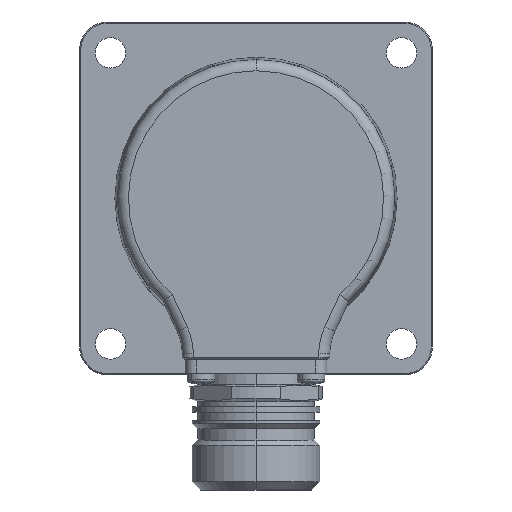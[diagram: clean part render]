
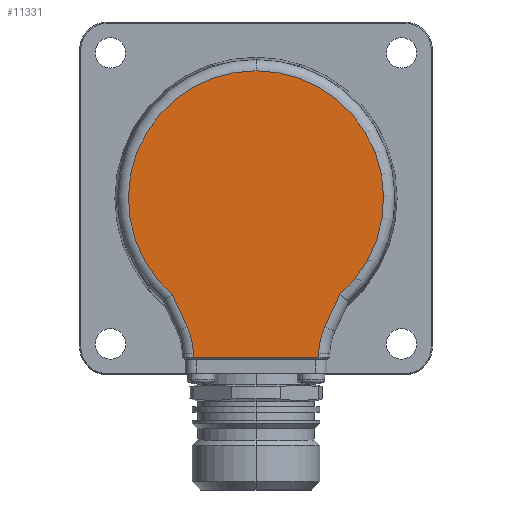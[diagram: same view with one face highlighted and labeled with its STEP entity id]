
A CAD part, left-side view. The second image highlights one B-rep face of the part: STEP entity #11331.
In plain terms, the highlighted planar face has unit normal (-1, 0, 0).
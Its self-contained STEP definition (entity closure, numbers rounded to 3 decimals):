
#5728 = CARTESIAN_POINT ( 'NONE',  ( -21., -11.268, -27.974 ) ) ;
#5736 = DIRECTION ( 'NONE',  ( 0., 0., 1. ) ) ;
#5737 = DIRECTION ( 'NONE',  ( 1., 0., 0. ) ) ;
#5738 = CARTESIAN_POINT ( 'NONE',  ( -21., -23.266, -28.183 ) ) ;
#5739 = AXIS2_PLACEMENT_3D ( 'NONE', #5738, #5737, #5736 ) ;
#5745 = CARTESIAN_POINT ( 'NONE',  ( -21., 0., 0. ) ) ;
#5759 = CIRCLE ( 'NONE', #5739, 12. ) ;
#5763 = CARTESIAN_POINT ( 'NONE',  ( -21., -12.39, -23.112 ) ) ;
#5773 = CARTESIAN_POINT ( 'NONE',  ( -21., -15.091, -17.32 ) ) ;
#5774 = DIRECTION ( 'NONE',  ( 0., 0., 1. ) ) ;
#5775 = DIRECTION ( 'NONE',  ( -1., 0., 0. ) ) ;
#5776 = AXIS2_PLACEMENT_3D ( 'NONE', #5745, #5775, #5774 ) ;
#5777 = CIRCLE ( 'NONE', #5776, 22.972 ) ;
#5888 = DIRECTION ( 'NONE',  ( 0., -0.423, 0.906 ) ) ;
#5889 = VECTOR ( 'NONE', #5888, 1000. ) ;
#5890 = CARTESIAN_POINT ( 'NONE',  ( -21., -14.953, -17.615 ) ) ;
#5891 = LINE ( 'NONE', #5890, #5889 ) ;
#10522 = CARTESIAN_POINT ( 'NONE',  ( -21., 11.255, -28.695 ) ) ;
#10640 = CARTESIAN_POINT ( 'NONE',  ( -21., -11.255, -28.695 ) ) ;
#11179 = EDGE_CURVE ( 'NONE', #11194, #11188, #15028, .T. ) ;
#11188 = VERTEX_POINT ( 'NONE', #15110 ) ;
#11194 = VERTEX_POINT ( 'NONE', #14931 ) ;
#11213 = EDGE_CURVE ( 'NONE', #11269, #11194, #15081, .T. ) ;
#11227 = EDGE_CURVE ( 'NONE', #11412, #11404, #14954, .T. ) ;
#11267 = EDGE_CURVE ( 'NONE', #11268, #11269, #15291, .T. ) ;
#11268 = VERTEX_POINT ( 'NONE', #15308 ) ;
#11269 = VERTEX_POINT ( 'NONE', #15307 ) ;
#11329 = EDGE_CURVE ( 'NONE', #11188, #11412, #15512, .T. ) ;
#11331 = ADVANCED_FACE ( 'NONE', ( #15507 ), #15342, .F. ) ;
#11332 = EDGE_LOOP ( 'NONE', ( #11334, #11335, #11336, #11492, #11493, #11495, #11496, #11497, #11498 ) ) ;
#11334 = ORIENTED_EDGE ( 'NONE', *, *, #11329, .T. ) ;
#11335 = ORIENTED_EDGE ( 'NONE', *, *, #11227, .T. ) ;
#11336 = ORIENTED_EDGE ( 'NONE', *, *, #11337, .T. ) ;
#11337 = EDGE_CURVE ( 'NONE', #11404, #11437, #15333, .T. ) ;
#11404 = VERTEX_POINT ( 'NONE', #10640 ) ;
#11412 = VERTEX_POINT ( 'NONE', #10522 ) ;
#11437 = VERTEX_POINT ( 'NONE', #5728 ) ;
#11441 = VERTEX_POINT ( 'NONE', #5763 ) ;
#11443 = EDGE_CURVE ( 'NONE', #11437, #11441, #5759, .T. ) ;
#11448 = EDGE_CURVE ( 'NONE', #11449, #11268, #5777, .T. ) ;
#11449 = VERTEX_POINT ( 'NONE', #5773 ) ;
#11492 = ORIENTED_EDGE ( 'NONE', *, *, #11443, .T. ) ;
#11493 = ORIENTED_EDGE ( 'NONE', *, *, #11494, .T. ) ;
#11494 = EDGE_CURVE ( 'NONE', #11441, #11449, #5891, .T. ) ;
#11495 = ORIENTED_EDGE ( 'NONE', *, *, #11448, .T. ) ;
#11496 = ORIENTED_EDGE ( 'NONE', *, *, #11267, .T. ) ;
#11497 = ORIENTED_EDGE ( 'NONE', *, *, #11213, .T. ) ;
#11498 = ORIENTED_EDGE ( 'NONE', *, *, #11179, .T. ) ;
#14931 = CARTESIAN_POINT ( 'NONE',  ( -21., 12.39, -23.112 ) ) ;
#14951 = DIRECTION ( 'NONE',  ( 0., -1., 0. ) ) ;
#14952 = VECTOR ( 'NONE', #14951, 1000. ) ;
#14953 = CARTESIAN_POINT ( 'NONE',  ( -21., -11.25, -28.695 ) ) ;
#14954 = LINE ( 'NONE', #14953, #14952 ) ;
#15024 = DIRECTION ( 'NONE',  ( 0., 0., 1. ) ) ;
#15025 = DIRECTION ( 'NONE',  ( 1., 0., 0. ) ) ;
#15026 = CARTESIAN_POINT ( 'NONE',  ( -21., 23.266, -28.183 ) ) ;
#15027 = AXIS2_PLACEMENT_3D ( 'NONE', #15026, #15025, #15024 ) ;
#15028 = CIRCLE ( 'NONE', #15027, 12. ) ;
#15077 = DIRECTION ( 'NONE',  ( 0., -0.423, -0.906 ) ) ;
#15078 = VECTOR ( 'NONE', #15077, 1000. ) ;
#15079 = CARTESIAN_POINT ( 'NONE',  ( -21., 12.39, -23.112 ) ) ;
#15081 = LINE ( 'NONE', #15079, #15078 ) ;
#15110 = CARTESIAN_POINT ( 'NONE',  ( -21., 11.268, -27.974 ) ) ;
#15288 = DIRECTION ( 'NONE',  ( -1., 0., 0. ) ) ;
#15289 = CARTESIAN_POINT ( 'NONE',  ( -21., 0., 0. ) ) ;
#15290 = AXIS2_PLACEMENT_3D ( 'NONE', #15289, #15288, #15309 ) ;
#15291 = CIRCLE ( 'NONE', #15290, 22.972 ) ;
#15307 = CARTESIAN_POINT ( 'NONE',  ( -21., 15.091, -17.32 ) ) ;
#15308 = CARTESIAN_POINT ( 'NONE',  ( -21., 0., 22.972 ) ) ;
#15309 = DIRECTION ( 'NONE',  ( 0., 0., 1. ) ) ;
#15330 = DIRECTION ( 'NONE',  ( 0., -0.017, 1. ) ) ;
#15331 = VECTOR ( 'NONE', #15330, 1000. ) ;
#15332 = CARTESIAN_POINT ( 'NONE',  ( -21., -11.752, -0.205 ) ) ;
#15333 = LINE ( 'NONE', #15332, #15331 ) ;
#15338 = DIRECTION ( 'NONE',  ( 0., 0., 1. ) ) ;
#15339 = DIRECTION ( 'NONE',  ( 1., 0., 0. ) ) ;
#15340 = CARTESIAN_POINT ( 'NONE',  ( -21., 0., 0. ) ) ;
#15341 = AXIS2_PLACEMENT_3D ( 'NONE', #15340, #15339, #15338 ) ;
#15342 = PLANE ( 'NONE',  #15341 ) ;
#15507 = FACE_OUTER_BOUND ( 'NONE', #11332, .T. ) ;
#15508 = DIRECTION ( 'NONE',  ( 0., -0.017, -1. ) ) ;
#15509 = VECTOR ( 'NONE', #15508, 1000. ) ;
#15510 = CARTESIAN_POINT ( 'NONE',  ( -21., 11.752, -0.205 ) ) ;
#15512 = LINE ( 'NONE', #15510, #15509 ) ;
